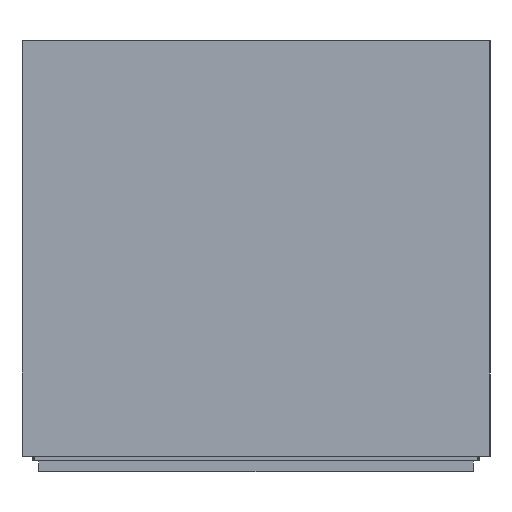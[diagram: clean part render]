
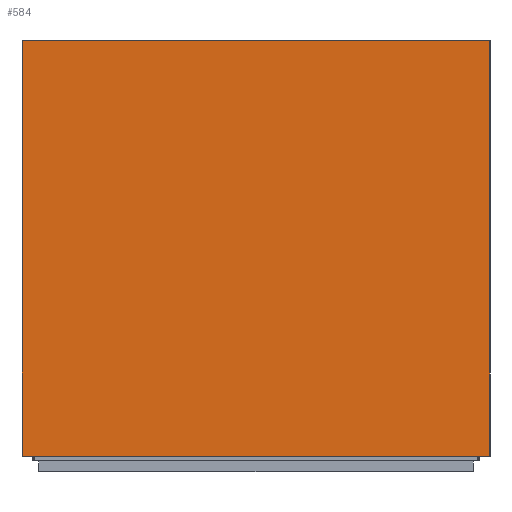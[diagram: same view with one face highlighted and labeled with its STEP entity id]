
A CAD part, front view. The second image highlights one B-rep face of the part: STEP entity #584.
In plain terms, the highlighted planar face has unit normal (0, -1, 0).
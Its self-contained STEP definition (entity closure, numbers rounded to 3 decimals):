
#584=ADVANCED_FACE('',(#790),#3802,.T.);
#790=FACE_OUTER_BOUND('',#996,.T.);
#996=EDGE_LOOP('',(#1274,#1275,#1276,#1277));
#1274=ORIENTED_EDGE('',*,*,#2314,.T.);
#1275=ORIENTED_EDGE('',*,*,#2315,.T.);
#1276=ORIENTED_EDGE('',*,*,#2316,.T.);
#1277=ORIENTED_EDGE('',*,*,#2317,.T.);
#2314=EDGE_CURVE('',#3378,#3379,#2922,.T.);
#2315=EDGE_CURVE('',#3379,#3380,#2923,.T.);
#2316=EDGE_CURVE('',#3380,#3381,#2924,.T.);
#2317=EDGE_CURVE('',#3381,#3378,#2925,.T.);
#2922=B_SPLINE_CURVE_WITH_KNOTS('',1,(#5162,#5163),.UNSPECIFIED.,.F.,.F.,
(2,2),(0.,450.),.UNSPECIFIED.);
#2923=B_SPLINE_CURVE_WITH_KNOTS('',1,(#5164,#5165),.UNSPECIFIED.,.F.,.F.,
(2,2),(0.,400.),.UNSPECIFIED.);
#2924=B_SPLINE_CURVE_WITH_KNOTS('',1,(#5166,#5167),.UNSPECIFIED.,.F.,.F.,
(2,2),(0.,450.),.UNSPECIFIED.);
#2925=B_SPLINE_CURVE_WITH_KNOTS('',1,(#5168,#5169),.UNSPECIFIED.,.F.,.F.,
(2,2),(0.,400.),.UNSPECIFIED.);
#3378=VERTEX_POINT('',#5158);
#3379=VERTEX_POINT('',#5159);
#3380=VERTEX_POINT('',#5160);
#3381=VERTEX_POINT('',#5161);
#3802=PLANE('',#4032);
#4032=AXIS2_PLACEMENT_3D('',#5157,#4430,$);
#4430=DIRECTION('',(0.,-1.,0.));
#5157=CARTESIAN_POINT('',(-46387.81,-17076.266,415.));
#5158=CARTESIAN_POINT('',(-46387.81,-17076.266,15.));
#5159=CARTESIAN_POINT('',(-45937.81,-17076.266,15.));
#5160=CARTESIAN_POINT('',(-45937.81,-17076.266,415.));
#5161=CARTESIAN_POINT('',(-46387.81,-17076.266,415.));
#5162=CARTESIAN_POINT('',(-46387.81,-17076.266,15.));
#5163=CARTESIAN_POINT('',(-45937.81,-17076.266,15.));
#5164=CARTESIAN_POINT('',(-45937.81,-17076.266,15.));
#5165=CARTESIAN_POINT('',(-45937.81,-17076.266,415.));
#5166=CARTESIAN_POINT('',(-45937.81,-17076.266,415.));
#5167=CARTESIAN_POINT('',(-46387.81,-17076.266,415.));
#5168=CARTESIAN_POINT('',(-46387.81,-17076.266,415.));
#5169=CARTESIAN_POINT('',(-46387.81,-17076.266,15.));
